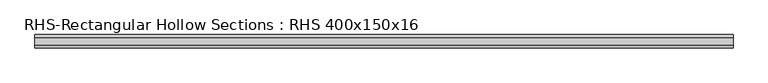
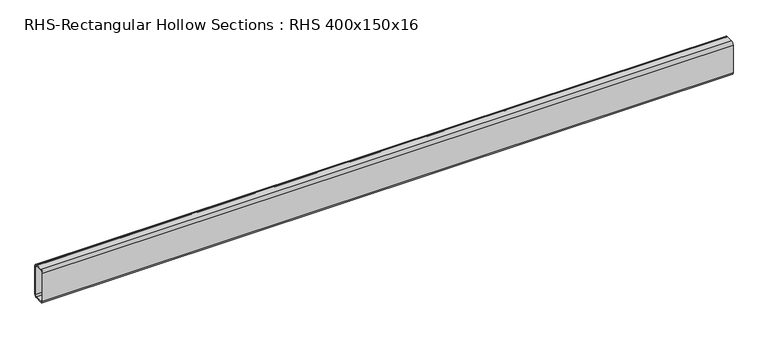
"""IFC4 building model written with IfcOpenShell, lengths in millimetres: beam geometry, RHS-Rectangular Hollow Sections : RHS 400x150x16."""

from ifc_helpers import new_model, si_unit, point, frame, frame_2d, origin, place, context, project, spatial, polyline, circle_curve, trimmed, segment, composite_curve, outline, extrude, source, transform, mapped, element, save


def rhs_rectangular_hollow_sections_rhs_400x150x16_c2b2d87c(model_context):
    return source(origin(), model_context, "Body", "SweptSolid", [
        extrude(outline(composite_curve([segment(polyline([(75.0, 168.0), (75.0, -168.0)]), True, "CONTINUOUS"), segment(trimmed(circle_curve(frame_2d((43.0, -168.0)), 32.0), [point((75.0, -168.0))], [point((43.0, -200.0))], False, "CARTESIAN"), True, "CONTINUOUS"), segment(polyline([(43.0, -200.0), (-43.0, -200.0)]), True, "CONTINUOUS"), segment(trimmed(circle_curve(frame_2d((-43.0, -168.0)), 32.0), [point((-43.0, -200.0))], [point((-75.0, -168.0))], False, "CARTESIAN"), True, "CONTINUOUS"), segment(polyline([(-75.0, -168.0), (-75.0, 168.0)]), True, "CONTINUOUS"), segment(trimmed(circle_curve(frame_2d((-43.0, 168.0)), 32.0), [point((-75.0, 168.0))], [point((-43.0, 200.0))], False, "CARTESIAN"), True, "CONTINUOUS"), segment(polyline([(-43.0, 200.0), (43.0, 200.0)]), True, "CONTINUOUS"), segment(trimmed(circle_curve(frame_2d((43.0, 168.0)), 32.0), [point((43.0, 200.0))], [point((75.0, 168.0))], False, "CARTESIAN"), True, "CONTINUOUS")], self_intersect=False), holes=[composite_curve([segment(trimmed(circle_curve(frame_2d((-43.0, 168.0)), 16.0), [point((-43.0, 184.0))], [point((-59.0, 168.0))], True, "CARTESIAN"), True, "CONTINUOUS"), segment(polyline([(-59.0, 168.0), (-59.0, -168.0)]), True, "CONTINUOUS"), segment(trimmed(circle_curve(frame_2d((-43.0, -168.0)), 16.0), [point((-59.0, -168.0))], [point((-43.0, -184.0))], True, "CARTESIAN"), True, "CONTINUOUS"), segment(polyline([(-43.0, -184.0), (43.0, -184.0)]), True, "CONTINUOUS"), segment(trimmed(circle_curve(frame_2d((43.0, -168.0)), 16.0), [point((43.0, -184.0))], [point((59.0, -168.0))], True, "CARTESIAN"), True, "CONTINUOUS"), segment(polyline([(59.0, -168.0), (59.0, 168.0)]), True, "CONTINUOUS"), segment(trimmed(circle_curve(frame_2d((43.0, 168.0)), 16.0), [point((59.0, 168.0))], [point((43.0, 184.0))], True, "CARTESIAN"), True, "CONTINUOUS"), segment(polyline([(43.0, 184.0), (-43.0, 184.0)]), True, "CONTINUOUS")], self_intersect=False)]), frame((-3941.0, 0.0, 0.0), z_axis=(1.0, 0.0, 0.0), x_axis=(0.0, 1.0, 0.0)), (0.0, 0.0, 1.0), 7882.0),
    ])


if __name__ == "__main__":
    model = new_model("IFC4")
    model_context = context("Model", 3, world=origin())
    ifc_project = project(units=[si_unit("LENGTHUNIT", "METRE", prefix="MILLI")], contexts=[model_context])
    site = spatial("IfcSite", under=ifc_project)
    building = spatial("IfcBuilding", under=site)
    placement = place(None, origin())
    rhs_rectangular_hollow_sections_rhs_400x150x16_shape = rhs_rectangular_hollow_sections_rhs_400x150x16_c2b2d87c(model_context)
    element("IfcBeam", 1, ObjectType="RHS-Rectangular Hollow Sections : RHS 400x150x16", at=placement, inside=building, context=model_context, shape_type="MappedRepresentation", body=[
        mapped(rhs_rectangular_hollow_sections_rhs_400x150x16_shape, transform((0.0, 0.0, 0.0), x_axis=(1.0, 0.0, 0.0), y_axis=(0.0, 1.0, 0.0), z_axis=(0.0, 0.0, 1.0))),
    ])
    save(model, "model.ifc")
